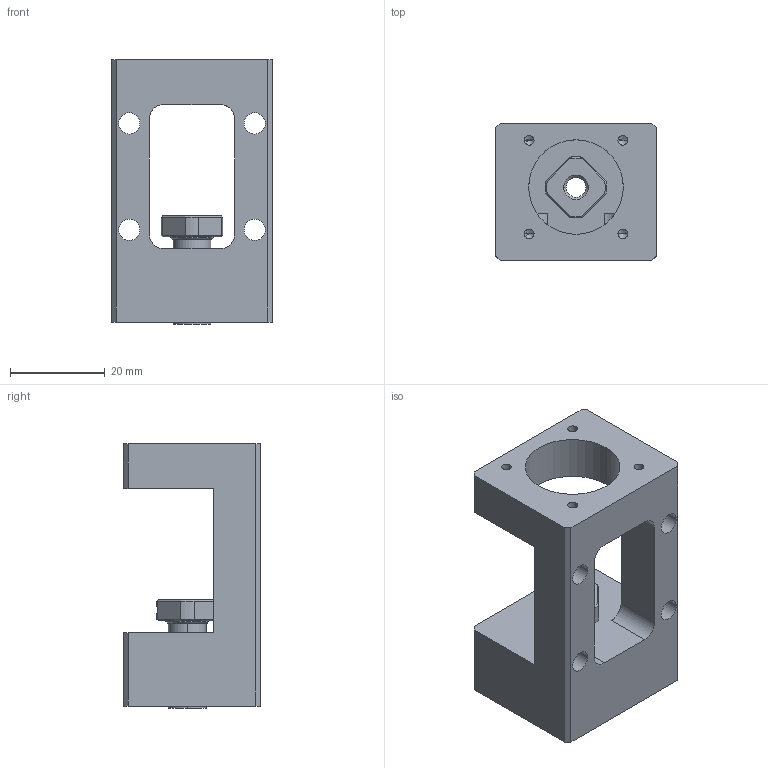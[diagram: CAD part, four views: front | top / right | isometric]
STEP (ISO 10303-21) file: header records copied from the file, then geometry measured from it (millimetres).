
FILE_DESCRIPTION (( 'STEP AP214' ), '1' );
FILE_NAME ('E-SBU-5.25-P5.STEP', '2026-03-25T06:14:53', ( '决扁浅何厘' ), ( '' ), 'SwSTEP 2.0', 'SolidWorks 2024', '' );
FILE_SCHEMA (( 'AUTOMOTIVE_DESIGN' ));
Length unit declared in the file: millimetre
Products named in the file (7): 5-P5-4.5; RN5; 5-P5 COVER; 5-P5-5.5; AC5; E-SBU-5.25-P5; E-SBU-4.25-P5 HOUSING
Assembly tree (7 placements, depth 2):
  E-SBU-5.25-P5
    E-SBU-4.25-P5 HOUSING
    AC5  x2
    5-P5 COVER
    5-P5-5.5
    5-P5-4.5
    RN5
Bounding box: 34 x 29 x 56 mm (x, y, z)
Volume: 25471.5 mm3; surface area: 13281 mm2
Topology: 27 solids, 27 shells, 252 faces, 606 edges, 379 vertices
Faces by surface type: cylinder 81, plane 67, cone 44, sphere 32, torus 28
Entity records: 6220 total; most frequent: CARTESIAN_POINT 1201, DIRECTION 1073, ORIENTED_EDGE 884, EDGE_CURVE 442, AXIS2_PLACEMENT_3D 437, VERTEX_POINT 281, EDGE_LOOP 245, CIRCLE 221
